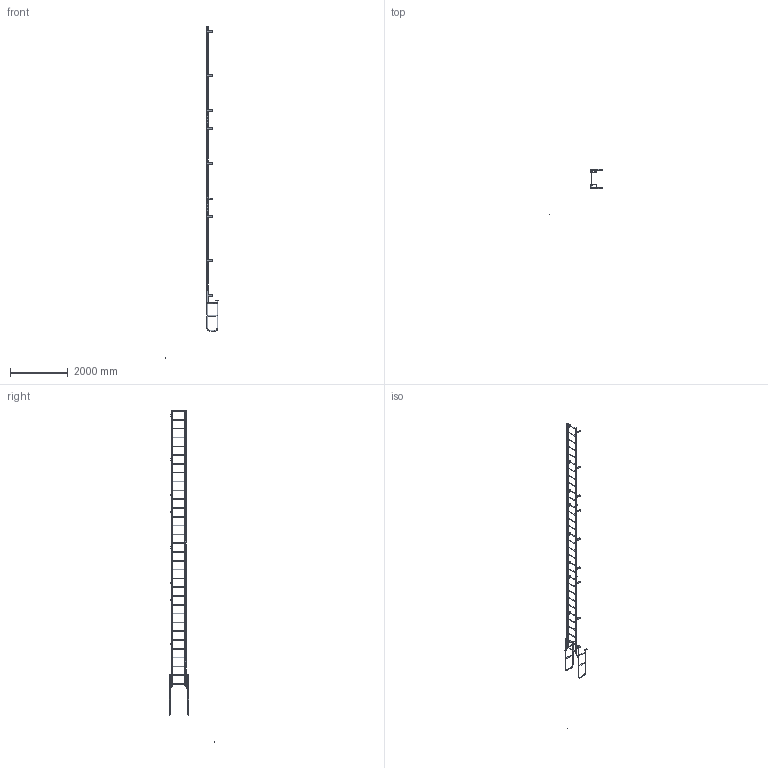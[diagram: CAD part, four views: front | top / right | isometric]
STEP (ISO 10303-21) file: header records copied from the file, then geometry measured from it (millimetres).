
FILE_DESCRIPTION(/* description */ (''),/* implementation_level */ '2;1');
FILE_NAME(/* name */ 'P:\MIKEL & KAREN\D0570360 F32W SIMPLIFIED PART.stp',/* time_stamp */ '2018-07-03T08:40:14-04:00',/* author */ ('stephanie'),/* organization */ (''),/* preprocessor_version */ 'ST-DEVELOPER v16.1',/* originating_system */ 'Autodesk Inventor 2016',/* authorisation */ '');
FILE_SCHEMA (('AUTOMOTIVE_DESIGN { 1 0 10303 214 3 1 1 }'));
Length unit declared in the file: centimetre
Products named in the file (1): D0570360 F32W SIMPLIFIED PART
Bounding box: 1863.02 x 1584.8 x 11495.59 mm (x, y, z)
Volume: 17779309 mm3; surface area: 6110373 mm2
Topology: 41 solids, 41 shells, 625 faces, 1657 edges, 1094 vertices
Faces by surface type: plane 354, cylinder 263, torus 8
Full cylindrical faces by diameter (mm): 0.254 x1, 10.319 x4, 14.287 x22, 19.05 x32, 22.098 x10, 22.225 x64, 25.4 x10
Entity records: 19310 total; most frequent: CARTESIAN_POINT 3446, DIRECTION 3216, ORIENTED_EDGE 2840, EDGE_CURVE 1416, AXIS2_PLACEMENT_3D 1190, VERTEX_POINT 1004, EDGE_LOOP 962, LINE 836
